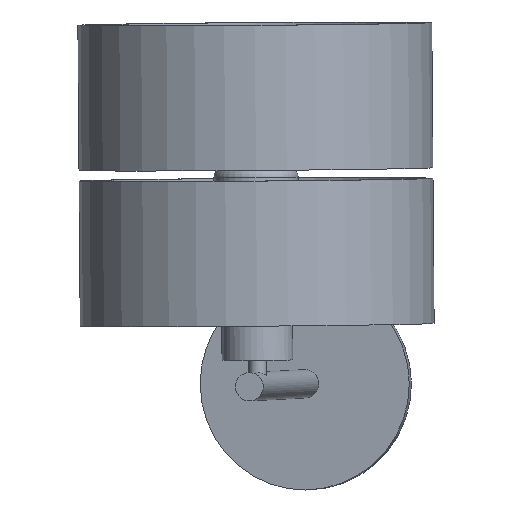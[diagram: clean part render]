
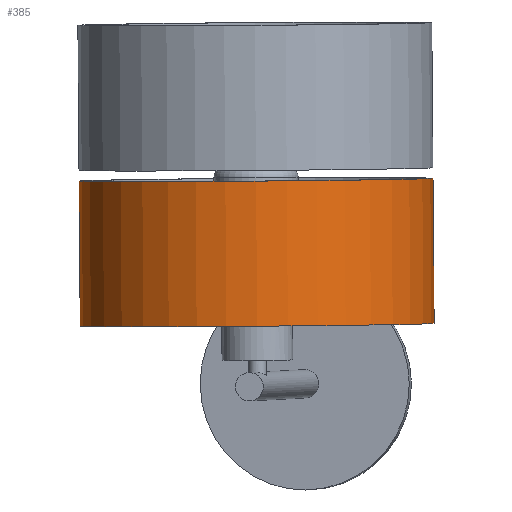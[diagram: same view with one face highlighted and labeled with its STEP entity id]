
A CAD part, left-side view. The second image highlights one B-rep face of the part: STEP entity #385.
In plain terms, the highlighted cylindrical face has radius 100 mm (diameter 200 mm), a full revolution.
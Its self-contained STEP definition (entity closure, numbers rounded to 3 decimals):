
#45=CIRCLE('',#473,100.);
#46=CIRCLE('',#474,100.);
#75=FACE_BOUND('',#144,.T.);
#104=FACE_OUTER_BOUND('',#143,.T.);
#143=EDGE_LOOP('',(#278));
#144=EDGE_LOOP('',(#279));
#211=VERTEX_POINT('',#871);
#212=VERTEX_POINT('',#873);
#243=EDGE_CURVE('',#211,#211,#45,.T.);
#244=EDGE_CURVE('',#212,#212,#46,.T.);
#278=ORIENTED_EDGE('',*,*,#243,.F.);
#279=ORIENTED_EDGE('',*,*,#244,.F.);
#335=CYLINDRICAL_SURFACE('',#472,100.);
#385=ADVANCED_FACE('',(#104,#75),#335,.T.);
#472=AXIS2_PLACEMENT_3D('',#870,#542,#543);
#473=AXIS2_PLACEMENT_3D('',#872,#544,#545);
#474=AXIS2_PLACEMENT_3D('',#874,#546,#547);
#542=DIRECTION('center_axis',(0.,0.,1.));
#543=DIRECTION('ref_axis',(-1.,0.,0.));
#544=DIRECTION('center_axis',(0.,0.,1.));
#545=DIRECTION('ref_axis',(-1.,0.,0.));
#546=DIRECTION('center_axis',(0.,0.,-1.));
#547=DIRECTION('ref_axis',(-1.,0.,0.));
#870=CARTESIAN_POINT('Origin',(0.,0.,0.));
#871=CARTESIAN_POINT('',(100.,0.,82.));
#872=CARTESIAN_POINT('Origin',(0.,0.,82.));
#873=CARTESIAN_POINT('',(100.,0.,0.));
#874=CARTESIAN_POINT('Origin',(0.,0.,0.));
